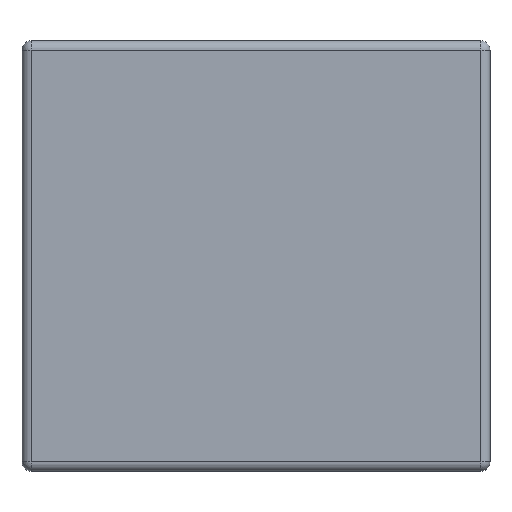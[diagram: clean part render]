
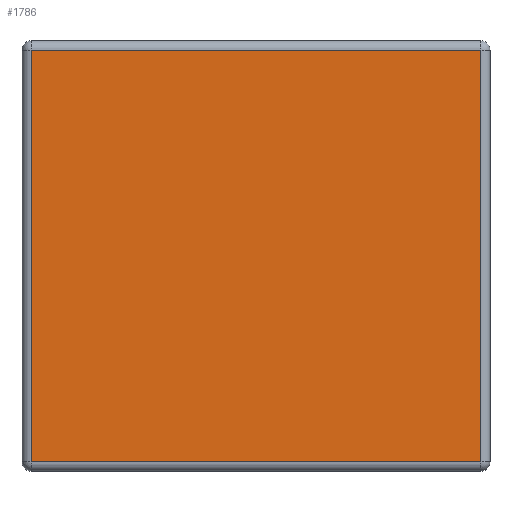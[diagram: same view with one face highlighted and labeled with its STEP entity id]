
A CAD part, front view. The second image highlights one B-rep face of the part: STEP entity #1786.
In plain terms, the highlighted planar face has unit normal (0, -1, 0).
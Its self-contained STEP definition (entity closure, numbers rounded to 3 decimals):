
#212=DIRECTION('',(0.,0.,1.));
#213=VECTOR('',#212,22.);
#214=CARTESIAN_POINT('',(-12.,0.,-11.));
#215=LINE('',#214,#213);
#779=DIRECTION('',(-1.,0.,0.));
#780=VECTOR('',#779,24.);
#781=CARTESIAN_POINT('',(12.,0.,-11.));
#782=LINE('',#781,#780);
#793=DIRECTION('',(0.,0.,-1.));
#794=VECTOR('',#793,22.);
#795=CARTESIAN_POINT('',(12.,0.,11.));
#796=LINE('',#795,#794);
#876=DIRECTION('',(1.,0.,0.));
#877=VECTOR('',#876,24.);
#878=CARTESIAN_POINT('',(-12.,0.,11.));
#879=LINE('',#878,#877);
#955=CARTESIAN_POINT('',(-12.,0.,11.));
#956=CARTESIAN_POINT('',(12.,0.,11.));
#957=VERTEX_POINT('',#955);
#958=VERTEX_POINT('',#956);
#1027=CARTESIAN_POINT('',(12.,0.,-11.));
#1028=VERTEX_POINT('',#1027);
#1029=CARTESIAN_POINT('',(-12.,0.,-11.));
#1030=VERTEX_POINT('',#1029);
#1773=CARTESIAN_POINT('',(0.,0.,0.));
#1774=DIRECTION('',(0.,1.,0.));
#1775=DIRECTION('',(0.,0.,1.));
#1776=AXIS2_PLACEMENT_3D('',#1773,#1774,#1775);
#1777=PLANE('',#1776);
#1779=ORIENTED_EDGE('',*,*,#1778,.T.);
#1780=ORIENTED_EDGE('',*,*,#1765,.T.);
#1781=ORIENTED_EDGE('',*,*,#1267,.T.);
#1783=ORIENTED_EDGE('',*,*,#1782,.T.);
#1784=EDGE_LOOP('',(#1779,#1780,#1781,#1783));
#1785=FACE_OUTER_BOUND('',#1784,.F.);
#1786=ADVANCED_FACE('',(#1785),#1777,.F.);
#1267=EDGE_CURVE('',#1030,#957,#215,.T.);
#1765=EDGE_CURVE('',#1028,#1030,#782,.T.);
#1778=EDGE_CURVE('',#958,#1028,#796,.T.);
#1782=EDGE_CURVE('',#957,#958,#879,.T.);
